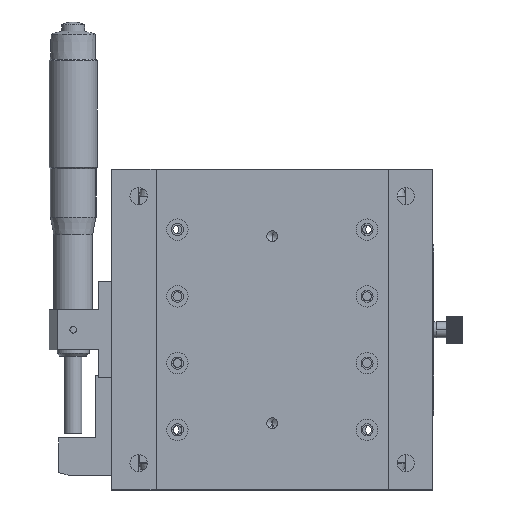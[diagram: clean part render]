
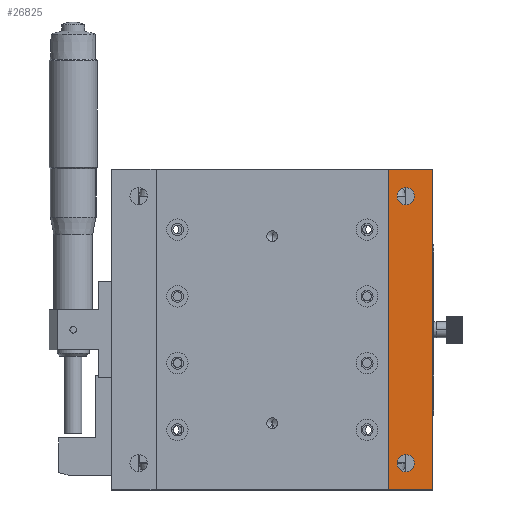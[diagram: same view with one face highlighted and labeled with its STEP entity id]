
A CAD part, front view. The second image highlights one B-rep face of the part: STEP entity #26825.
In plain terms, the highlighted planar face has unit normal (0, -1, 0).
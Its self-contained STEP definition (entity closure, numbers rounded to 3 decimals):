
#124 = LINE ( 'NONE', #16317, #22992 ) ;
#316 = DIRECTION ( 'NONE',  ( 0., 0., 1. ) ) ;
#1006 = DIRECTION ( 'NONE',  ( 0., 1., 0. ) ) ;
#1356 = FACE_BOUND ( 'NONE', #18972, .T. ) ;
#1673 = CARTESIAN_POINT ( 'NONE',  ( 50., 0., 46.75 ) ) ;
#2796 = VERTEX_POINT ( 'NONE', #9686 ) ;
#2829 = LINE ( 'NONE', #15101, #22942 ) ;
#3050 = VECTOR ( 'NONE', #16409, 1000. ) ;
#3387 = VERTEX_POINT ( 'NONE', #6985 ) ;
#3990 = EDGE_CURVE ( 'NONE', #18431, #2796, #2829, .T. ) ;
#4325 = DIRECTION ( 'NONE',  ( 1., 0., 0. ) ) ;
#4335 = CARTESIAN_POINT ( 'NONE',  ( 50., 0., -50. ) ) ;
#4765 = EDGE_CURVE ( 'NONE', #12044, #7412, #28088, .T. ) ;
#4984 = EDGE_LOOP ( 'NONE', ( #25863, #15912 ) ) ;
#5051 = CARTESIAN_POINT ( 'NONE',  ( 43.5, 0., 60. ) ) ;
#5816 = ORIENTED_EDGE ( 'NONE', *, *, #3990, .T. ) ;
#6509 = LINE ( 'NONE', #12550, #25541 ) ;
#6794 = DIRECTION ( 'NONE',  ( 0., 1., 0. ) ) ;
#6985 = CARTESIAN_POINT ( 'NONE',  ( 50., 0., -46.75 ) ) ;
#7145 = ORIENTED_EDGE ( 'NONE', *, *, #21883, .T. ) ;
#7307 = ORIENTED_EDGE ( 'NONE', *, *, #12281, .F. ) ;
#7412 = VERTEX_POINT ( 'NONE', #24999 ) ;
#7774 = DIRECTION ( 'NONE',  ( 0., 0., 1. ) ) ;
#9660 = DIRECTION ( 'NONE',  ( 0., 1., 0. ) ) ;
#9686 = CARTESIAN_POINT ( 'NONE',  ( 60., 0., -60. ) ) ;
#9721 = DIRECTION ( 'NONE',  ( 0., 0., -1. ) ) ;
#9731 = CARTESIAN_POINT ( 'NONE',  ( 43.5, 0., 60. ) ) ;
#10455 = AXIS2_PLACEMENT_3D ( 'NONE', #16255, #9660, #11961 ) ;
#10516 = CIRCLE ( 'NONE', #27952, 3.25 ) ;
#10927 = AXIS2_PLACEMENT_3D ( 'NONE', #27317, #16307, #14063 ) ;
#11961 = DIRECTION ( 'NONE',  ( 0., 0., 1. ) ) ;
#12044 = VERTEX_POINT ( 'NONE', #1673 ) ;
#12281 = EDGE_CURVE ( 'NONE', #18431, #26276, #13501, .T. ) ;
#12550 = CARTESIAN_POINT ( 'NONE',  ( -60., 0., 60. ) ) ;
#13201 = EDGE_LOOP ( 'NONE', ( #14275, #7307, #5816, #26596 ) ) ;
#13501 = LINE ( 'NONE', #5051, #3050 ) ;
#14063 = DIRECTION ( 'NONE',  ( 0., 0., 1. ) ) ;
#14275 = ORIENTED_EDGE ( 'NONE', *, *, #27613, .F. ) ;
#14477 = AXIS2_PLACEMENT_3D ( 'NONE', #21234, #1006, #7774 ) ;
#15101 = CARTESIAN_POINT ( 'NONE',  ( -60., 0., -60. ) ) ;
#15221 = CIRCLE ( 'NONE', #14477, 3.25 ) ;
#15339 = AXIS2_PLACEMENT_3D ( 'NONE', #4335, #26790, #26885 ) ;
#15734 = VERTEX_POINT ( 'NONE', #17629 ) ;
#15912 = ORIENTED_EDGE ( 'NONE', *, *, #4765, .T. ) ;
#16255 = CARTESIAN_POINT ( 'NONE',  ( 50., 0., 50. ) ) ;
#16307 = DIRECTION ( 'NONE',  ( 0., 1., 0. ) ) ;
#16317 = CARTESIAN_POINT ( 'NONE',  ( 60., 0., 60. ) ) ;
#16409 = DIRECTION ( 'NONE',  ( 0., 0., 1. ) ) ;
#16706 = EDGE_CURVE ( 'NONE', #3387, #20026, #10516, .T. ) ;
#17226 = CARTESIAN_POINT ( 'NONE',  ( 50., 0., -53.25 ) ) ;
#17629 = CARTESIAN_POINT ( 'NONE',  ( 60., 0., 60. ) ) ;
#17757 = CIRCLE ( 'NONE', #15339, 3.25 ) ;
#18041 = FACE_BOUND ( 'NONE', #4984, .T. ) ;
#18431 = VERTEX_POINT ( 'NONE', #27215 ) ;
#18972 = EDGE_LOOP ( 'NONE', ( #20233, #7145 ) ) ;
#20026 = VERTEX_POINT ( 'NONE', #17226 ) ;
#20233 = ORIENTED_EDGE ( 'NONE', *, *, #16706, .T. ) ;
#21110 = EDGE_CURVE ( 'NONE', #15734, #2796, #124, .T. ) ;
#21234 = CARTESIAN_POINT ( 'NONE',  ( 50., 0., 50. ) ) ;
#21883 = EDGE_CURVE ( 'NONE', #20026, #3387, #17757, .T. ) ;
#22310 = PLANE ( 'NONE',  #10927 ) ;
#22402 = CARTESIAN_POINT ( 'NONE',  ( 50., 0., -50. ) ) ;
#22942 = VECTOR ( 'NONE', #4325, 1000. ) ;
#22992 = VECTOR ( 'NONE', #9721, 1000. ) ;
#23314 = DIRECTION ( 'NONE',  ( 1., 0., 0. ) ) ;
#24246 = FACE_OUTER_BOUND ( 'NONE', #13201, .T. ) ;
#24999 = CARTESIAN_POINT ( 'NONE',  ( 50., 0., 53.25 ) ) ;
#25541 = VECTOR ( 'NONE', #23314, 1000. ) ;
#25863 = ORIENTED_EDGE ( 'NONE', *, *, #26483, .T. ) ;
#26276 = VERTEX_POINT ( 'NONE', #9731 ) ;
#26483 = EDGE_CURVE ( 'NONE', #7412, #12044, #15221, .T. ) ;
#26596 = ORIENTED_EDGE ( 'NONE', *, *, #21110, .F. ) ;
#26790 = DIRECTION ( 'NONE',  ( 0., 1., 0. ) ) ;
#26825 = ADVANCED_FACE ( 'NONE', ( #18041, #1356, #24246 ), #22310, .F. ) ;
#26885 = DIRECTION ( 'NONE',  ( 0., 0., 1. ) ) ;
#27215 = CARTESIAN_POINT ( 'NONE',  ( 43.5, 0., -60. ) ) ;
#27317 = CARTESIAN_POINT ( 'NONE',  ( -60., 0., 60. ) ) ;
#27613 = EDGE_CURVE ( 'NONE', #26276, #15734, #6509, .T. ) ;
#27952 = AXIS2_PLACEMENT_3D ( 'NONE', #22402, #6794, #316 ) ;
#28088 = CIRCLE ( 'NONE', #10455, 3.25 ) ;
